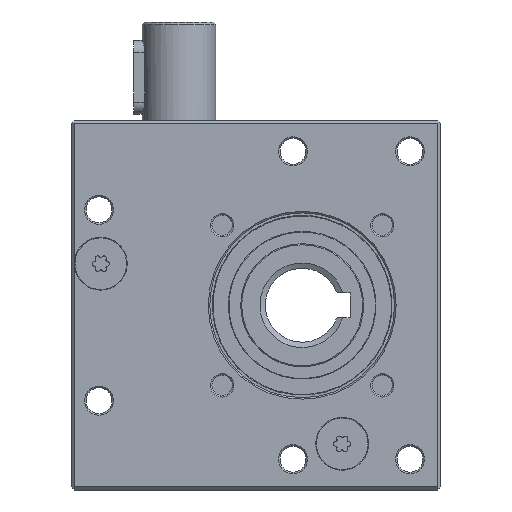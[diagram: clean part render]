
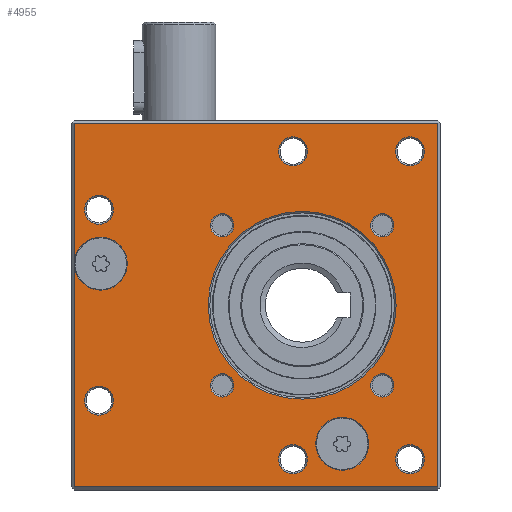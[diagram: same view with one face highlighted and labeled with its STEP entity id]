
A CAD part, front view. The second image highlights one B-rep face of the part: STEP entity #4955.
In plain terms, the highlighted planar face has unit normal (0, -1, 0).
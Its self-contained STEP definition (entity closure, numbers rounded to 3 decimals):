
#149=PLANE('',#5561);
#207=FACE_BOUND('',#751,.T.);
#208=FACE_BOUND('',#752,.T.);
#209=FACE_BOUND('',#753,.T.);
#210=FACE_BOUND('',#754,.T.);
#211=FACE_BOUND('',#755,.T.);
#212=FACE_BOUND('',#756,.T.);
#213=FACE_BOUND('',#757,.T.);
#214=FACE_BOUND('',#758,.T.);
#215=FACE_BOUND('',#759,.T.);
#216=FACE_BOUND('',#760,.T.);
#217=FACE_BOUND('',#761,.T.);
#218=FACE_BOUND('',#762,.T.);
#436=FACE_OUTER_BOUND('',#750,.T.);
#750=EDGE_LOOP('',(#4003,#4004,#4005,#4006,#4007,#4008,#4009));
#751=EDGE_LOOP('',(#4010));
#752=EDGE_LOOP('',(#4011));
#753=EDGE_LOOP('',(#4012));
#754=EDGE_LOOP('',(#4013));
#755=EDGE_LOOP('',(#4014));
#756=EDGE_LOOP('',(#4015));
#757=EDGE_LOOP('',(#4016));
#758=EDGE_LOOP('',(#4017));
#759=EDGE_LOOP('',(#4018));
#760=EDGE_LOOP('',(#4019));
#761=EDGE_LOOP('',(#4020));
#762=EDGE_LOOP('',(#4021));
#1146=CIRCLE('',#5558,1.9);
#1149=CIRCLE('',#5562,4.3);
#1150=CIRCLE('',#5563,4.3);
#1151=CIRCLE('',#5564,1.9);
#1152=CIRCLE('',#5565,1.9);
#1153=CIRCLE('',#5566,2.35);
#1154=CIRCLE('',#5567,2.35);
#1155=CIRCLE('',#5568,2.35);
#1156=CIRCLE('',#5569,4.3);
#1157=CIRCLE('',#5570,15.25);
#1158=CIRCLE('',#5571,2.35);
#1159=CIRCLE('',#5572,2.35);
#1160=CIRCLE('',#5573,2.35);
#1161=CIRCLE('',#5574,1.9);
#1447=LINE('',#8642,#1741);
#1448=LINE('',#8644,#1742);
#1449=LINE('',#8646,#1743);
#1450=LINE('',#8651,#1744);
#1451=LINE('',#8652,#1745);
#1741=VECTOR('',#6967,10.);
#1742=VECTOR('',#6968,10.);
#1743=VECTOR('',#6969,10.);
#1744=VECTOR('',#6974,10.);
#1745=VECTOR('',#6975,10.);
#2181=VERTEX_POINT('',#8632);
#2184=VERTEX_POINT('',#8640);
#2185=VERTEX_POINT('',#8641);
#2186=VERTEX_POINT('',#8643);
#2187=VERTEX_POINT('',#8645);
#2188=VERTEX_POINT('',#8647);
#2189=VERTEX_POINT('',#8650);
#2190=VERTEX_POINT('',#8653);
#2191=VERTEX_POINT('',#8655);
#2192=VERTEX_POINT('',#8657);
#2193=VERTEX_POINT('',#8659);
#2194=VERTEX_POINT('',#8661);
#2195=VERTEX_POINT('',#8663);
#2196=VERTEX_POINT('',#8665);
#2197=VERTEX_POINT('',#8667);
#2198=VERTEX_POINT('',#8669);
#2199=VERTEX_POINT('',#8671);
#2200=VERTEX_POINT('',#8673);
#2813=EDGE_CURVE('',#2181,#2181,#1146,.T.);
#2817=EDGE_CURVE('',#2184,#2185,#1447,.T.);
#2818=EDGE_CURVE('',#2186,#2184,#1448,.T.);
#2819=EDGE_CURVE('',#2187,#2186,#1449,.T.);
#2820=EDGE_CURVE('',#2187,#2188,#1149,.T.);
#2821=EDGE_CURVE('',#2188,#2187,#1150,.T.);
#2822=EDGE_CURVE('',#2189,#2187,#1450,.T.);
#2823=EDGE_CURVE('',#2185,#2189,#1451,.T.);
#2824=EDGE_CURVE('',#2190,#2190,#1151,.T.);
#2825=EDGE_CURVE('',#2191,#2191,#1152,.T.);
#2826=EDGE_CURVE('',#2192,#2192,#1153,.T.);
#2827=EDGE_CURVE('',#2193,#2193,#1154,.T.);
#2828=EDGE_CURVE('',#2194,#2194,#1155,.T.);
#2829=EDGE_CURVE('',#2195,#2195,#1156,.T.);
#2830=EDGE_CURVE('',#2196,#2196,#1157,.T.);
#2831=EDGE_CURVE('',#2197,#2197,#1158,.T.);
#2832=EDGE_CURVE('',#2198,#2198,#1159,.T.);
#2833=EDGE_CURVE('',#2199,#2199,#1160,.T.);
#2834=EDGE_CURVE('',#2200,#2200,#1161,.T.);
#4003=ORIENTED_EDGE('',*,*,#2817,.F.);
#4004=ORIENTED_EDGE('',*,*,#2818,.F.);
#4005=ORIENTED_EDGE('',*,*,#2819,.F.);
#4006=ORIENTED_EDGE('',*,*,#2820,.T.);
#4007=ORIENTED_EDGE('',*,*,#2821,.T.);
#4008=ORIENTED_EDGE('',*,*,#2822,.F.);
#4009=ORIENTED_EDGE('',*,*,#2823,.F.);
#4010=ORIENTED_EDGE('',*,*,#2824,.F.);
#4011=ORIENTED_EDGE('',*,*,#2825,.F.);
#4012=ORIENTED_EDGE('',*,*,#2826,.F.);
#4013=ORIENTED_EDGE('',*,*,#2827,.F.);
#4014=ORIENTED_EDGE('',*,*,#2828,.F.);
#4015=ORIENTED_EDGE('',*,*,#2829,.T.);
#4016=ORIENTED_EDGE('',*,*,#2830,.F.);
#4017=ORIENTED_EDGE('',*,*,#2831,.F.);
#4018=ORIENTED_EDGE('',*,*,#2832,.F.);
#4019=ORIENTED_EDGE('',*,*,#2833,.F.);
#4020=ORIENTED_EDGE('',*,*,#2834,.F.);
#4021=ORIENTED_EDGE('',*,*,#2813,.F.);
#4955=ADVANCED_FACE('',(#436,#207,#208,#209,#210,#211,#212,#213,#214,#215,
#216,#217,#218),#149,.F.);
#5558=AXIS2_PLACEMENT_3D('',#8633,#6958,#6959);
#5561=AXIS2_PLACEMENT_3D('',#8639,#6965,#6966);
#5562=AXIS2_PLACEMENT_3D('',#8648,#6970,#6971);
#5563=AXIS2_PLACEMENT_3D('',#8649,#6972,#6973);
#5564=AXIS2_PLACEMENT_3D('',#8654,#6976,#6977);
#5565=AXIS2_PLACEMENT_3D('',#8656,#6978,#6979);
#5566=AXIS2_PLACEMENT_3D('',#8658,#6980,#6981);
#5567=AXIS2_PLACEMENT_3D('',#8660,#6982,#6983);
#5568=AXIS2_PLACEMENT_3D('',#8662,#6984,#6985);
#5569=AXIS2_PLACEMENT_3D('',#8664,#6986,#6987);
#5570=AXIS2_PLACEMENT_3D('',#8666,#6988,#6989);
#5571=AXIS2_PLACEMENT_3D('',#8668,#6990,#6991);
#5572=AXIS2_PLACEMENT_3D('',#8670,#6992,#6993);
#5573=AXIS2_PLACEMENT_3D('',#8672,#6994,#6995);
#5574=AXIS2_PLACEMENT_3D('',#8674,#6996,#6997);
#6958=DIRECTION('center_axis',(0.,-1.,0.));
#6959=DIRECTION('ref_axis',(0.,0.,
1.));
#6965=DIRECTION('center_axis',(0.,1.,0.));
#6966=DIRECTION('ref_axis',(0.,0.,
1.));
#6967=DIRECTION('',(0.,0.,-1.));
#6968=DIRECTION('',(1.,0.,0.));
#6969=DIRECTION('',(0.,0.,1.));
#6970=DIRECTION('center_axis',(0.,1.,0.));
#6971=DIRECTION('ref_axis',(0.,0.,
1.));
#6972=DIRECTION('center_axis',(0.,1.,0.));
#6973=DIRECTION('ref_axis',(0.,0.,
1.));
#6974=DIRECTION('',(0.,0.,1.));
#6975=DIRECTION('',(-1.,0.,0.));
#6976=DIRECTION('center_axis',(0.,-1.,0.));
#6977=DIRECTION('ref_axis',(0.,0.,
1.));
#6978=DIRECTION('center_axis',(0.,-1.,0.));
#6979=DIRECTION('ref_axis',(0.,0.,
1.));
#6980=DIRECTION('center_axis',(0.,-1.,0.));
#6981=DIRECTION('ref_axis',(0.,0.,
1.));
#6982=DIRECTION('center_axis',(0.,-1.,0.));
#6983=DIRECTION('ref_axis',(0.,0.,
1.));
#6984=DIRECTION('center_axis',(0.,-1.,0.));
#6985=DIRECTION('ref_axis',(0.,0.,
1.));
#6986=DIRECTION('center_axis',(0.,1.,0.));
#6987=DIRECTION('ref_axis',(0.,0.,
1.));
#6988=DIRECTION('center_axis',(0.,-1.,0.));
#6989=DIRECTION('ref_axis',(0.,0.,
-1.));
#6990=DIRECTION('center_axis',(0.,-1.,0.));
#6991=DIRECTION('ref_axis',(0.,0.,
1.));
#6992=DIRECTION('center_axis',(0.,-1.,0.));
#6993=DIRECTION('ref_axis',(0.,0.,
1.));
#6994=DIRECTION('center_axis',(0.,-1.,0.));
#6995=DIRECTION('ref_axis',(0.,0.,
1.));
#6996=DIRECTION('center_axis',(0.,-1.,0.));
#6997=DIRECTION('ref_axis',(0.,0.,
1.));
#8632=CARTESIAN_POINT('',(7.,-17.5,10.5));
#8633=CARTESIAN_POINT('Origin',(7.,-17.5,12.4));
#8639=CARTESIAN_POINT('Origin',(14.,-17.5,-0.6));
#8640=CARTESIAN_POINT('',(42.,-17.5,28.9));
#8641=CARTESIAN_POINT('',(42.,-17.5,-30.1));
#8642=CARTESIAN_POINT('',(42.,-17.5,-0.6));
#8643=CARTESIAN_POINT('',(-17.,-17.5,28.9));
#8644=CARTESIAN_POINT('',(27.75,-17.5,28.9));
#8645=CARTESIAN_POINT('',(-17.,-17.5,6.15));
#8646=CARTESIAN_POINT('',(-17.,-17.5,-0.6));
#8647=CARTESIAN_POINT('',(-12.7,-17.5,1.85));
#8648=CARTESIAN_POINT('Origin',(-12.7,-17.5,6.15));
#8649=CARTESIAN_POINT('Origin',(-12.7,-17.5,6.15));
#8650=CARTESIAN_POINT('',(-17.,-17.5,-30.1));
#8651=CARTESIAN_POINT('',(-17.,-17.5,-0.6));
#8652=CARTESIAN_POINT('',(0.25,-17.5,-30.1));
#8653=CARTESIAN_POINT('',(7.,-17.5,-15.5));
#8654=CARTESIAN_POINT('Origin',(7.,-17.5,-13.6));
#8655=CARTESIAN_POINT('',(33.,-17.5,10.5));
#8656=CARTESIAN_POINT('Origin',(33.,-17.5,12.4));
#8657=CARTESIAN_POINT('',(-13.,-17.5,12.55));
#8658=CARTESIAN_POINT('Origin',(-13.,-17.5,14.9));
#8659=CARTESIAN_POINT('',(18.5,-17.5,-27.95));
#8660=CARTESIAN_POINT('Origin',(18.5,-17.5,-25.6));
#8661=CARTESIAN_POINT('',(37.5,-17.5,22.05));
#8662=CARTESIAN_POINT('Origin',(37.5,-17.5,24.4));
#8663=CARTESIAN_POINT('',(26.5,-17.5,-27.4));
#8664=CARTESIAN_POINT('Origin',(26.5,-17.5,-23.1));
#8665=CARTESIAN_POINT('',(20.,-17.5,14.65));
#8666=CARTESIAN_POINT('Origin',(20.,-17.5,-0.6));
#8667=CARTESIAN_POINT('',(37.5,-17.5,-27.95));
#8668=CARTESIAN_POINT('Origin',(37.5,-17.5,-25.6));
#8669=CARTESIAN_POINT('',(18.5,-17.5,22.05));
#8670=CARTESIAN_POINT('Origin',(18.5,-17.5,24.4));
#8671=CARTESIAN_POINT('',(-13.,-17.5,-18.45));
#8672=CARTESIAN_POINT('Origin',(-13.,-17.5,-16.1));
#8673=CARTESIAN_POINT('',(33.,-17.5,-15.5));
#8674=CARTESIAN_POINT('Origin',(33.,-17.5,-13.6));
